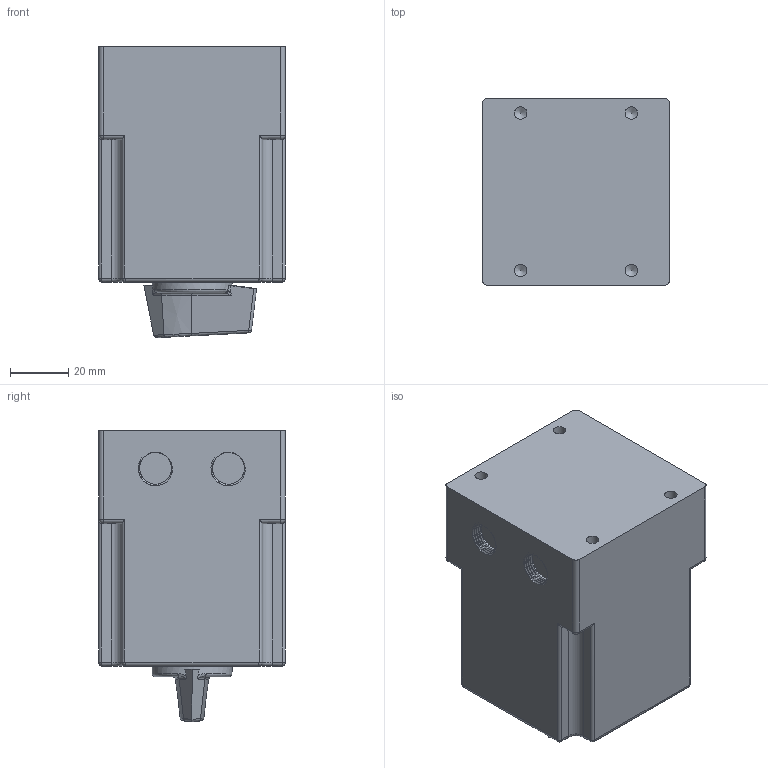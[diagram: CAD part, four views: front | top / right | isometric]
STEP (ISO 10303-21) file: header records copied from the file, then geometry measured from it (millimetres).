
FILE_DESCRIPTION(/* description */ (''),/* implementation_level */ '2;1');
FILE_NAME(/* name */ '4G10-PK_IP55_3_lub_4_korpusy.stp',/* time_stamp */ '2021-07-22T08:14:20+02:00',/* author */ (''),/* organization */ (''),/* preprocessor_version */ 'ST-DEVELOPER v18.1',/* originating_system */ 'SIEMENS PLM Software NX 1965',/* authorisation */ '');
FILE_SCHEMA (('AUTOMOTIVE_DESIGN { 1 0 10303 214 3 1 1 1 }'));
Length unit declared in the file: millimetre
Products named in the file (1): 4G10-PK_IP55_3_lub_4_korpusy_stp
Bounding box: 64 x 64 x 99.94 mm (x, y, z)
Surface area: 31838.6 mm2 (no closed solid volume)
Topology: 0 solids, 1 shells, 316 faces, 837 edges, 518 vertices
Faces by surface type: cylinder 122, plane 111, bspline 51, torus 16, cone 10, sphere 6
Full cylindrical faces by diameter (mm): 2.9 x24, 3.5 x4, 4.3 x4, 7 x4, 11 x14, 27.5 x1
Entity records: 17229 total; most frequent: CARTESIAN_POINT 11166, ORIENTED_EDGE 1304, DIRECTION 1131, EDGE_CURVE 652, AXIS2_PLACEMENT_3D 453, VERTEX_POINT 422, EDGE_LOOP 328, ADVANCED_FACE 282
